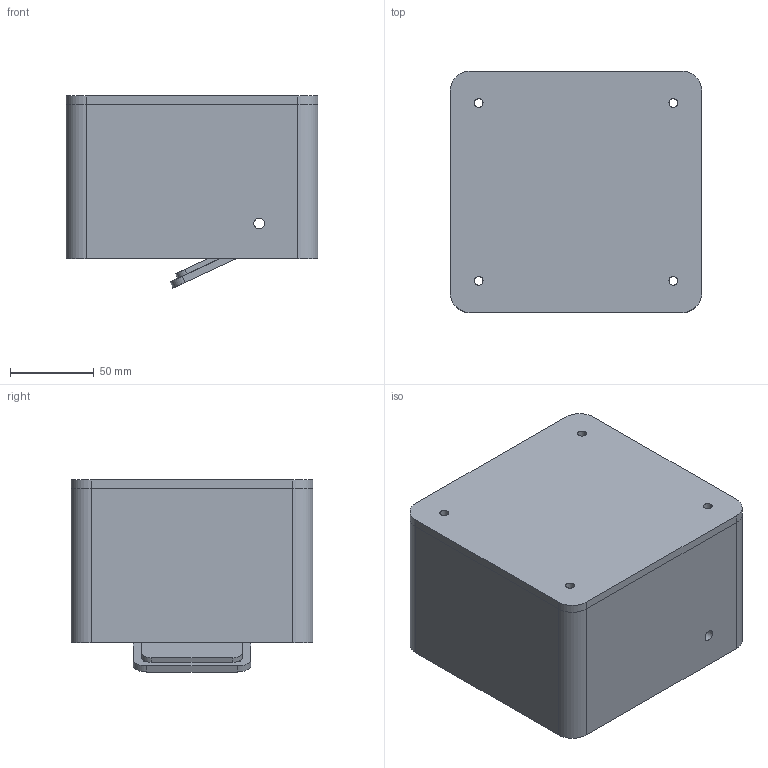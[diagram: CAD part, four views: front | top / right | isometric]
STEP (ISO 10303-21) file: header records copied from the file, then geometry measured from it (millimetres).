
FILE_DESCRIPTION(('Open CASCADE Model'),'2;1');
FILE_NAME('Open CASCADE Shape Model','2026-09-16T16:54:28',('Author'),( 'Open CASCADE'),'Open CASCADE STEP processor 7.8','Open CASCADE 7.8' ,'Unknown');
FILE_SCHEMA(('AUTOMOTIVE_DESIGN { 1 0 10303 214 1 1 1 1 }'));
Length unit declared in the file: millimetre
Products named in the file (10): sealed_laser_pod_subassembly; pod_body; service_lid; optical_window; window_retainer; internal_pan_plate; internal_tilt_yoke; emitter_cartridge; pan_servo_proxy; pan_drive_pinion
Assembly tree (10 placements, depth 2):
  sealed_laser_pod_subassembly
    pod_body
    service_lid
    optical_window
    window_retainer
    internal_pan_plate
    internal_tilt_yoke
    emitter_cartridge
    pan_servo_proxy  x2
    pan_drive_pinion
Bounding box: 150 x 144 x 114.45 mm (x, y, z)
Volume: 875858.7 mm3; surface area: 258724.7 mm2
Topology: 10 solids, 10 shells, 217 faces, 556 edges, 370 vertices
Faces by surface type: cylinder 113, plane 104
Full cylindrical faces by diameter (mm): 3.2 x4, 4.2 x4, 5.2 x12, 6 x2, 6.2 x1, 6.4 x2, 8.2 x2, 10.2 x2, 10.6 x2, 12 x1, 16 x2, 32 x1, 40 x1, 76 x2
Entity records: 13365 total; most frequent: CARTESIAN_POINT 3545, DIRECTION 1820, ORIENTED_EDGE 962, PCURVE 962, DEFINITIONAL_REPRESENTATION 962, LINE 901, VECTOR 901, EDGE_CURVE 481
